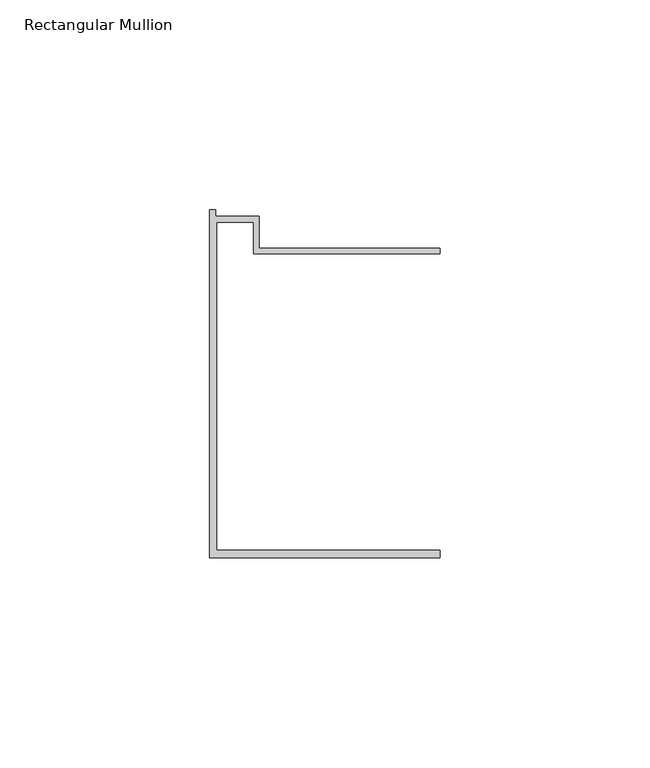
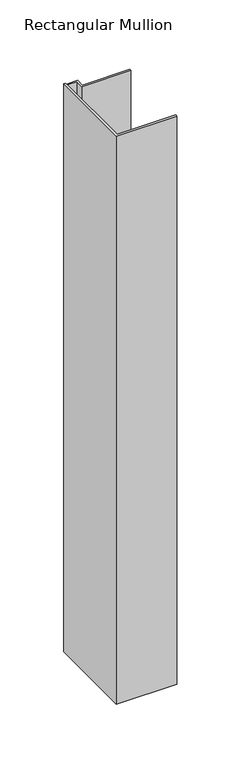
"""IFC4 building model written with IfcOpenShell, lengths in millimetres: member geometry, Rectangular Mullion : Danpal Top Mullion."""

import ifcopenshell
import ifcopenshell.guid

model = None  # the IFC model being written
_history = None  # IfcOwnerHistory: only IFC2X3 demands one
_inside = {}  # id of a spatial element -> (the spatial element, [elements in it])
_under = {}  # id of a project, library or spatial element -> (it, [spatial elements below it])
_declared = {}  # id of a project -> (the project, [libraries it declares])
_typed = {}  # id of a type object -> (the type object, [elements of that type])
_made_of = {}  # id of a material, layer set ... -> (it, [elements and type objects made of it])


def new_model(schema):
    """Start an empty IFC model of exactly this schema.

    Asked for "IFC4X3", IfcOpenShell would pick the latest addendum, in which some entities
    have other attributes; the version numbers below select the first issue.
    IFC2X3 requires an IfcOwnerHistory on every rooted entity: one is made here for all.
    """
    global model, _history
    if schema == "IFC4X3":
        model = ifcopenshell.file(schema_version=(4, 3, 0, 0))
    else:
        model = ifcopenshell.file(schema=schema)
    _inside.clear()
    _under.clear()
    _declared.clear()
    _typed.clear()
    _made_of.clear()
    _history = None
    if model.schema == "IFC2X3":
        org = make("IfcOrganization", Name="unknown")
        user = make(
            "IfcPersonAndOrganization",
            ThePerson=make("IfcPerson", FamilyName="unknown"),
            TheOrganization=org,
        )
        app = make(
            "IfcApplication",
            ApplicationDeveloper=org,
            Version="unknown",
            ApplicationFullName="unknown",
            ApplicationIdentifier="unknown",
        )
        _history = make(
            "IfcOwnerHistory",
            OwningUser=user,
            OwningApplication=app,
            ChangeAction="ADDED",
            CreationDate=0,
        )
    return model


def make(cls, **values):
    """One entity of the class cls with the attributes given. An attribute that is None is left unset."""
    return model.create_entity(
        cls, **{name: value for name, value in values.items() if value is not None}
    )


def rooted(cls, **values):
    """An entity with a GlobalId (a new one), such as an element, a storey or a relation."""
    return make(cls, GlobalId=ifcopenshell.guid.new(), OwnerHistory=_history, **values)


def si_unit(unit_type, name, prefix=None):
    """IfcSIUnit, for example si_unit("LENGTHUNIT", "METRE", prefix="MILLI")."""
    return make("IfcSIUnit", UnitType=unit_type, Prefix=prefix, Name=name)


def assignment(units):
    """IfcUnitAssignment: the units of a project."""
    return None if units is None else make("IfcUnitAssignment", Units=units)


def point(xyz):
    """IfcCartesianPoint."""
    return None if xyz is None else make("IfcCartesianPoint", Coordinates=xyz)


def direction(xyz):
    """IfcDirection."""
    return None if xyz is None else make("IfcDirection", DirectionRatios=xyz)


def frame(location, z_axis=None, x_axis=None):
    """IfcAxis2Placement3D, a coordinate frame: its origin and axes. An axis left out is left unset."""
    return make(
        "IfcAxis2Placement3D",
        Location=point(location),
        Axis=direction(z_axis),
        RefDirection=direction(x_axis),
    )


def origin():
    """The frame at (0, 0, 0) with its axes left unset."""
    return frame((0.0, 0.0, 0.0))


def place(relative_to, where):
    """IfcLocalPlacement: puts the frame where relative to a parent placement (None: the world)."""
    return make(
        "IfcLocalPlacement", PlacementRelTo=relative_to, RelativePlacement=where
    )


def context(
    kind, dimensions, precision=None, world=None, true_north=None, identifier=None
):
    """IfcGeometricRepresentationContext, for example the 3D "Model" context."""
    return make(
        "IfcGeometricRepresentationContext",
        ContextIdentifier=identifier,
        ContextType=kind,
        CoordinateSpaceDimension=dimensions,
        Precision=precision,
        WorldCoordinateSystem=world,
        TrueNorth=true_north,
    )


def project(units=None, contexts=None):
    """IfcProject with its units and contexts."""
    return rooted(
        "IfcProject",
        Name="project",
        RepresentationContexts=contexts,
        UnitsInContext=assignment(units),
    )


def spatial(cls, under=None, at=None, **own):
    """A site, building, storey or space (cls), placed at a placement, below another one or the project."""
    s = rooted(cls, ObjectPlacement=at, **own)
    if under is not None:
        _under.setdefault(under.id(), (under, []))[1].append(s)
    return s


def polyline(points):
    """IfcPolyline through the points."""
    return make("IfcPolyline", Points=[point(p) for p in points])


def outline(outer, holes=None, kind="AREA"):
    """IfcArbitraryClosedProfileDef: a profile drawn as a closed curve; with holes, ...WithVoids."""
    if holes is None:
        return make("IfcArbitraryClosedProfileDef", ProfileType=kind, OuterCurve=outer)
    return make(
        "IfcArbitraryProfileDefWithVoids",
        ProfileType=kind,
        OuterCurve=outer,
        InnerCurves=holes,
    )


def extrude(swept, where, along, depth):
    """IfcExtrudedAreaSolid: the profile swept, set in the frame where, extruded along a direction by depth."""
    return make(
        "IfcExtrudedAreaSolid",
        SweptArea=swept,
        Position=where,
        ExtrudedDirection=direction(along),
        Depth=depth,
    )


def shape(context_of_items, identifier, shape_type, items):
    """IfcShapeRepresentation: the items that make up one representation, for example the "Body"."""
    return make(
        "IfcShapeRepresentation",
        ContextOfItems=context_of_items,
        RepresentationIdentifier=identifier,
        RepresentationType=shape_type,
        Items=items,
    )


def source(mapping_origin, context_of_items, identifier, shape_type, items):
    """IfcRepresentationMap: a shape defined once, which mapped items show again and again."""
    return make(
        "IfcRepresentationMap",
        MappingOrigin=mapping_origin,
        MappedRepresentation=shape(context_of_items, identifier, shape_type, items),
    )


def transform(
    local_origin,
    x_axis=None,
    y_axis=None,
    z_axis=None,
    scale=None,
    scale2=None,
    scale3=None,
    uniform=True,
):
    """IfcCartesianTransformationOperator3D, or its non-uniform kind. x_axis, y_axis, z_axis: its Axis1, 2, 3."""
    if uniform:
        return make(
            "IfcCartesianTransformationOperator3D",
            Axis1=direction(x_axis),
            Axis2=direction(y_axis),
            LocalOrigin=point(local_origin),
            Scale=scale,
            Axis3=direction(z_axis),
        )
    return make(
        "IfcCartesianTransformationOperator3DnonUniform",
        Axis1=direction(x_axis),
        Axis2=direction(y_axis),
        LocalOrigin=point(local_origin),
        Scale=scale,
        Axis3=direction(z_axis),
        Scale2=scale2,
        Scale3=scale3,
    )


def mapped(mapping_source, mapping_target):
    """IfcMappedItem: shows the shape of a source again, moved by a transform."""
    return make(
        "IfcMappedItem", MappingSource=mapping_source, MappingTarget=mapping_target
    )


def made_of(thing, what):
    """Note that an element or type object is made of a material, layer set ...; save() writes the relation."""
    if what is not None:
        _made_of.setdefault(what.id(), (what, []))[1].append(thing)
    return thing


def element(
    cls,
    number,
    at=None,
    inside=None,
    cuts=None,
    type_object=None,
    material=None,
    context=None,
    identifier="Body",
    shape_type=None,
    held_by="IfcProductDefinitionShape",
    body=None,
    shapes=None,
    **own,
):
    """One element of the class cls, such as IfcWall. Its Tag is "e" and its number.

    at: its placement. inside: the storey or other place that contains it. cuts: it is an
    opening in that element (IfcRelVoidsElement). A single representation is given by context,
    identifier, shape_type and body (its items); several are given by shapes. held_by: the class
    of the entity that holds the representations. save() writes the other relations.
    """
    e = rooted(cls, Tag="e%d" % number, ObjectPlacement=at, **own)
    if body is not None:
        shapes = [shape(context, identifier, shape_type, body)]
    if shapes is not None:
        e.Representation = make(held_by, Representations=shapes)
    if inside is not None:
        _inside.setdefault(inside.id(), (inside, []))[1].append(e)
    if cuts is not None:
        rooted(
            "IfcRelVoidsElement", RelatingBuildingElement=cuts, RelatedOpeningElement=e
        )
    if type_object is not None:
        _typed.setdefault(type_object.id(), (type_object, []))[1].append(e)
    return made_of(e, material)


def aggregate(whole, parts):
    """IfcRelAggregates: a whole, such as a stair, and the parts it consists of."""
    return rooted("IfcRelAggregates", RelatingObject=whole, RelatedObjects=parts)


def save(model, path):
    """Write the relations noted so far, then the file.

    IfcRelAggregates (storeys below a building ...), IfcRelContainedInSpatialStructure (elements
    in a storey), IfcRelDefinesByType, IfcRelAssociatesMaterial and IfcRelDeclares: one each for
    every whole, place, type object, material and project.
    """
    for whole, parts in _under.values():
        aggregate(whole, parts)
    for where, things in _inside.values():
        rooted(
            "IfcRelContainedInSpatialStructure",
            RelatedElements=things,
            RelatingStructure=where,
        )
    for kind, things in _typed.values():
        rooted("IfcRelDefinesByType", RelatedObjects=things, RelatingType=kind)
    for what, things in _made_of.values():
        rooted("IfcRelAssociatesMaterial", RelatedObjects=things, RelatingMaterial=what)
    for by, libraries in _declared.values():
        rooted("IfcRelDeclares", RelatingContext=by, RelatedDefinitions=libraries)
    model.write(path)


def rectangular_mullion_ced645ad(model_context):
    return source(origin(), model_context, "Body", "SweptSolid", [
        extrude(outline(polyline([(0.0, 80.8144448), (-44.4546632, 80.8144448), (-44.4546632, 88.4144116), (-53.2546474, 88.4144116), (-53.2546474, 10.2068341), (0.0, 10.2068341), (0.0, 8.4568509), (-54.8546474, 8.4568509), (-54.8546474, 91.3144448), (-53.4546474, 91.3144448), (-53.4546474, 89.8206003), (-43.0546632, 89.8206003), (-43.0546632, 82.2144448), (0.0, 82.2144448), (0.0, 80.8144448)])), frame((0.0, 0.0, -544.9508269), z_axis=(0.0, 0.0, 1.0), x_axis=(1.0, 0.0, 0.0)), (0.0, 0.0, 1.0), 544.9508269),
    ])


if __name__ == "__main__":
    model = new_model("IFC4")
    model_context = context("Model", 3, world=origin())
    ifc_project = project(units=[si_unit("LENGTHUNIT", "METRE", prefix="MILLI")], contexts=[model_context])
    site = spatial("IfcSite", under=ifc_project)
    building = spatial("IfcBuilding", under=site)
    placement = place(None, origin())
    rectangular_mullion_shape = rectangular_mullion_ced645ad(model_context)
    element("IfcMember", 1, ObjectType="Rectangular Mullion : Danpal Top Mullion", at=placement, inside=building, context=model_context, shape_type="MappedRepresentation", body=[
        mapped(rectangular_mullion_shape, transform((0.0, 0.0, 0.0), x_axis=(1.0, 0.0, 0.0), y_axis=(0.0, 1.0, 0.0), z_axis=(0.0, 0.0, 1.0))),
    ])
    save(model, "model.ifc")
